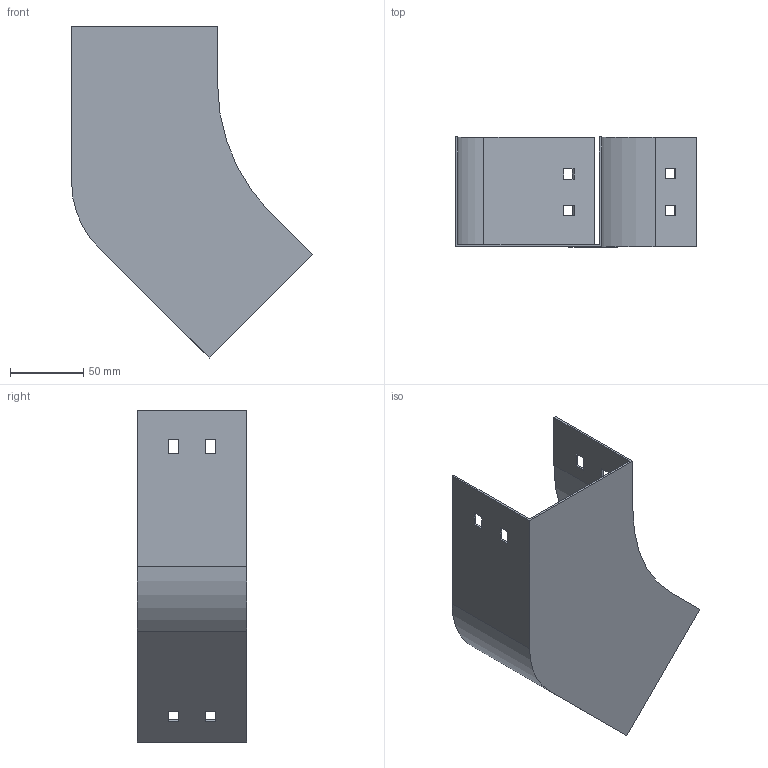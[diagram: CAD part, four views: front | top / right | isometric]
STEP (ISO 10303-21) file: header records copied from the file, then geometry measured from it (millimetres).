
FILE_DESCRIPTION (( 'STEP AP214' ), '1' );
FILE_NAME ('P4_107.step', '2025-07-16T09:18:49', ( '' ), ( '' ), 'SwSTEP 2.0', 'SolidWorks 2023', '' );
FILE_SCHEMA (( 'AUTOMOTIVE_DESIGN' ));
Length unit declared in the file: millimetre
Products named in the file (1): P4_107
Bounding box: 164.9 x 75 x 227.38 mm (x, y, z)
Volume: 82001.8 mm3; surface area: 111147.6 mm2
Topology: 1 solids, 1 shells, 50 faces, 144 edges, 96 vertices
Faces by surface type: plane 46, cylinder 4
Entity records: 1671 total; most frequent: CARTESIAN_POINT 291, ORIENTED_EDGE 288, DIRECTION 254, EDGE_CURVE 144, LINE 136, VECTOR 136, VERTEX_POINT 96, EDGE_LOOP 66
